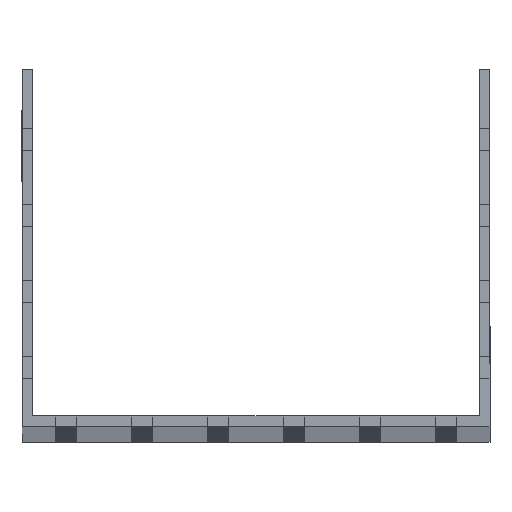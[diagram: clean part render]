
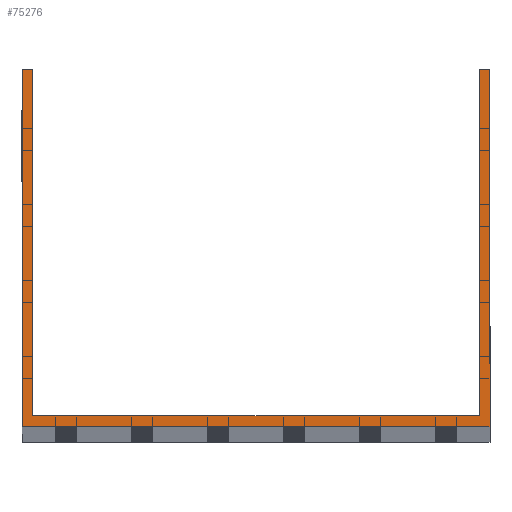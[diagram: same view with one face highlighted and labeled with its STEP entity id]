
A CAD part, top view. The second image highlights one B-rep face of the part: STEP entity #75276.
In plain terms, the highlighted planar face has unit normal (0, 0, 1).
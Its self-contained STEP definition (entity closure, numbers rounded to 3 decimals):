
#695 = DIRECTION ( 'NONE',  ( 0., 1., 0. ) ) ;
#1092 = EDGE_CURVE ( 'NONE', #84013, #132699, #11717, .T. ) ;
#3259 = CARTESIAN_POINT ( 'NONE',  ( -77., 0., 1500. ) ) ;
#3421 = CARTESIAN_POINT ( 'NONE',  ( 73.5, 117.5, 1500. ) ) ;
#3626 = VECTOR ( 'NONE', #72611, 1000. ) ;
#5686 = DIRECTION ( 'NONE',  ( 1., 0., 0. ) ) ;
#8819 = LINE ( 'NONE', #51125, #3626 ) ;
#11056 = CARTESIAN_POINT ( 'NONE',  ( 73.5, 117.5, 1500. ) ) ;
#11717 = LINE ( 'NONE', #128290, #22312 ) ;
#13705 = EDGE_CURVE ( 'NONE', #135909, #83406, #117475, .T. ) ;
#14582 = ORIENTED_EDGE ( 'NONE', *, *, #92265, .T. ) ;
#15350 = ORIENTED_EDGE ( 'NONE', *, *, #117509, .F. ) ;
#20748 = VECTOR ( 'NONE', #94546, 1000. ) ;
#21041 = CARTESIAN_POINT ( 'NONE',  ( 77., 117.5, 1500. ) ) ;
#21373 = VECTOR ( 'NONE', #24581, 1000. ) ;
#22312 = VECTOR ( 'NONE', #55394, 1000. ) ;
#24581 = DIRECTION ( 'NONE',  ( -1., 0., 0. ) ) ;
#27759 = VERTEX_POINT ( 'NONE', #32829 ) ;
#29368 = LINE ( 'NONE', #84806, #20748 ) ;
#30219 = CARTESIAN_POINT ( 'NONE',  ( -73.5, 117.5, 1500. ) ) ;
#31700 = ORIENTED_EDGE ( 'NONE', *, *, #107479, .T. ) ;
#31785 = CARTESIAN_POINT ( 'NONE',  ( 77., 117.5, 1500. ) ) ;
#32829 = CARTESIAN_POINT ( 'NONE',  ( 73.5, 3.5, 1500. ) ) ;
#35230 = VERTEX_POINT ( 'NONE', #54779 ) ;
#36349 = CARTESIAN_POINT ( 'NONE',  ( -77., 117.5, 1500. ) ) ;
#39495 = LINE ( 'NONE', #60973, #83276 ) ;
#39699 = VERTEX_POINT ( 'NONE', #11056 ) ;
#42417 = VECTOR ( 'NONE', #127894, 1000. ) ;
#49471 = VERTEX_POINT ( 'NONE', #3259 ) ;
#51125 = CARTESIAN_POINT ( 'NONE',  ( -73.5, 117.5, 1500. ) ) ;
#53432 = DIRECTION ( 'NONE',  ( 1., 0., 0. ) ) ;
#54779 = CARTESIAN_POINT ( 'NONE',  ( -73.5, 3.5, 1500. ) ) ;
#55394 = DIRECTION ( 'NONE',  ( -1., 0., 0. ) ) ;
#59091 = CARTESIAN_POINT ( 'NONE',  ( -77., 3.5, 1500. ) ) ;
#59948 = EDGE_CURVE ( 'NONE', #132699, #49471, #29368, .T. ) ;
#60973 = CARTESIAN_POINT ( 'NONE',  ( -77., 0., 1500. ) ) ;
#67035 = ORIENTED_EDGE ( 'NONE', *, *, #1092, .T. ) ;
#67377 = CARTESIAN_POINT ( 'NONE',  ( -77., 117.5, 1500. ) ) ;
#67553 = LINE ( 'NONE', #36349, #21373 ) ;
#70187 = EDGE_LOOP ( 'NONE', ( #15350, #67035, #99970, #14582, #130319, #31700, #106111, #84116 ) ) ;
#71537 = DIRECTION ( 'NONE',  ( 0., 0., 1. ) ) ;
#72611 = DIRECTION ( 'NONE',  ( 0., -1., 0. ) ) ;
#74095 = EDGE_CURVE ( 'NONE', #27759, #39699, #127672, .T. ) ;
#75276 = ADVANCED_FACE ( 'NONE', ( #93740 ), #106195, .T. ) ;
#83276 = VECTOR ( 'NONE', #103326, 1000. ) ;
#83406 = VERTEX_POINT ( 'NONE', #31785 ) ;
#84013 = VERTEX_POINT ( 'NONE', #30219 ) ;
#84116 = ORIENTED_EDGE ( 'NONE', *, *, #114600, .F. ) ;
#84806 = CARTESIAN_POINT ( 'NONE',  ( -77., 117.5, 1500. ) ) ;
#85114 = AXIS2_PLACEMENT_3D ( 'NONE', #105510, #71537, #53432 ) ;
#91585 = VECTOR ( 'NONE', #695, 1000. ) ;
#92265 = EDGE_CURVE ( 'NONE', #49471, #135909, #39495, .T. ) ;
#93740 = FACE_OUTER_BOUND ( 'NONE', #70187, .T. ) ;
#94546 = DIRECTION ( 'NONE',  ( 0., -1., 0. ) ) ;
#99970 = ORIENTED_EDGE ( 'NONE', *, *, #59948, .T. ) ;
#100879 = CARTESIAN_POINT ( 'NONE',  ( 77., 0., 1500. ) ) ;
#103326 = DIRECTION ( 'NONE',  ( 1., 0., 0. ) ) ;
#105510 = CARTESIAN_POINT ( 'NONE',  ( 0., 0., 1500. ) ) ;
#106111 = ORIENTED_EDGE ( 'NONE', *, *, #74095, .F. ) ;
#106195 = PLANE ( 'NONE',  #85114 ) ;
#107479 = EDGE_CURVE ( 'NONE', #83406, #39699, #67553, .T. ) ;
#107951 = VECTOR ( 'NONE', #5686, 1000. ) ;
#114600 = EDGE_CURVE ( 'NONE', #35230, #27759, #131298, .T. ) ;
#117475 = LINE ( 'NONE', #21041, #42417 ) ;
#117509 = EDGE_CURVE ( 'NONE', #84013, #35230, #8819, .T. ) ;
#127672 = LINE ( 'NONE', #3421, #91585 ) ;
#127894 = DIRECTION ( 'NONE',  ( 0., 1., 0. ) ) ;
#128290 = CARTESIAN_POINT ( 'NONE',  ( -77., 117.5, 1500. ) ) ;
#130319 = ORIENTED_EDGE ( 'NONE', *, *, #13705, .T. ) ;
#131298 = LINE ( 'NONE', #59091, #107951 ) ;
#132699 = VERTEX_POINT ( 'NONE', #67377 ) ;
#135909 = VERTEX_POINT ( 'NONE', #100879 ) ;
